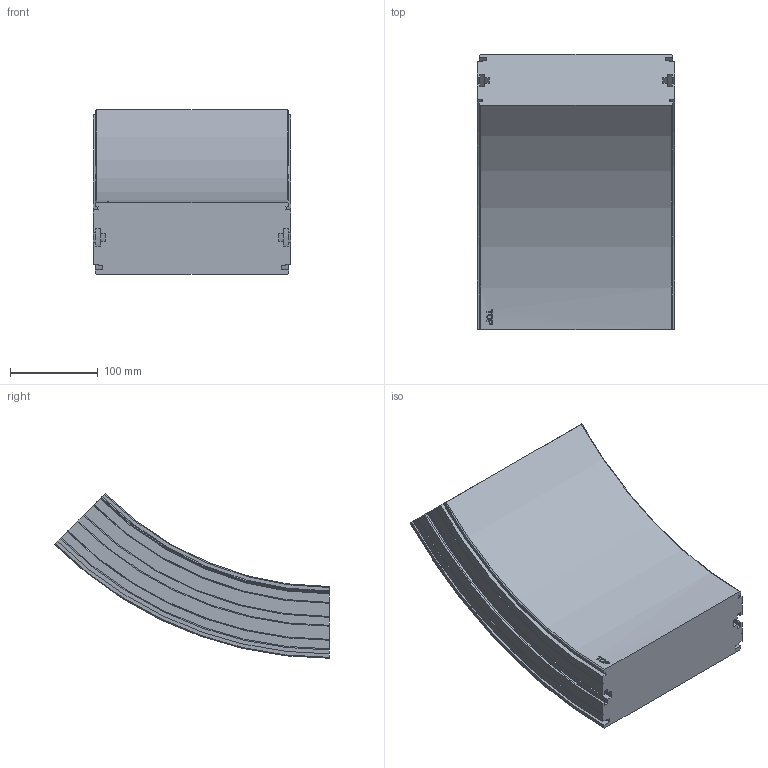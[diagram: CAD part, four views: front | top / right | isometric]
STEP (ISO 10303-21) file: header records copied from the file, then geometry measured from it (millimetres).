
FILE_DESCRIPTION(/* description */ ('VERTIKALKURVA S220 R400'),/* implementation_level */ '2;1');
FILE_NAME(/* name */ '\\carryline.intra\privat\users\mathias\Desktop\Tillfälliga filer\220-5645+220-2000-UPP-01.stp',/* time_stamp */ '2018-11-29T13:44:11+01:00',/* author */ ('MD'),/* organization */ ('CARRYLINE'),/* preprocessor_version */ 'ST-DEVELOPER v17',/* originating_system */ 'Autodesk Inventor 2018',/* authorisation */ '');
FILE_SCHEMA (('AUTOMOTIVE_DESIGN { 1 0 10303 214 3 1 1 }'));
Length unit declared in the file: millimetre
Products named in the file (1): 220-5645+220-2000-UPP-01
Bounding box: 224 x 312.54 x 187.09 mm (x, y, z)
Volume: 5574813.2 mm3; surface area: 273098.3 mm2
Topology: 1 solids, 1 shells, 113 faces, 318 edges, 212 vertices
Faces by surface type: plane 48, cylinder 31, bspline 14, cone 14, torus 6
Entity records: 8361 total; most frequent: CARTESIAN_POINT 5393, ORIENTED_EDGE 636, DIRECTION 576, EDGE_CURVE 318, VERTEX_POINT 212, AXIS2_PLACEMENT_3D 199, LINE 178, VECTOR 178
